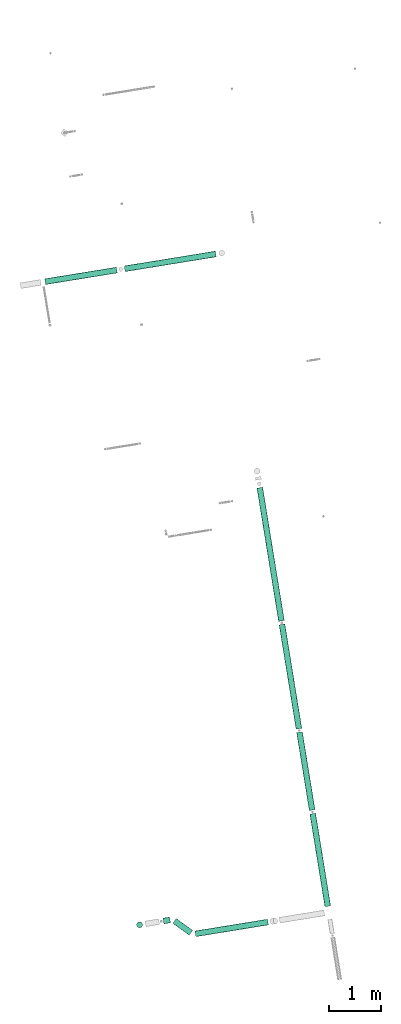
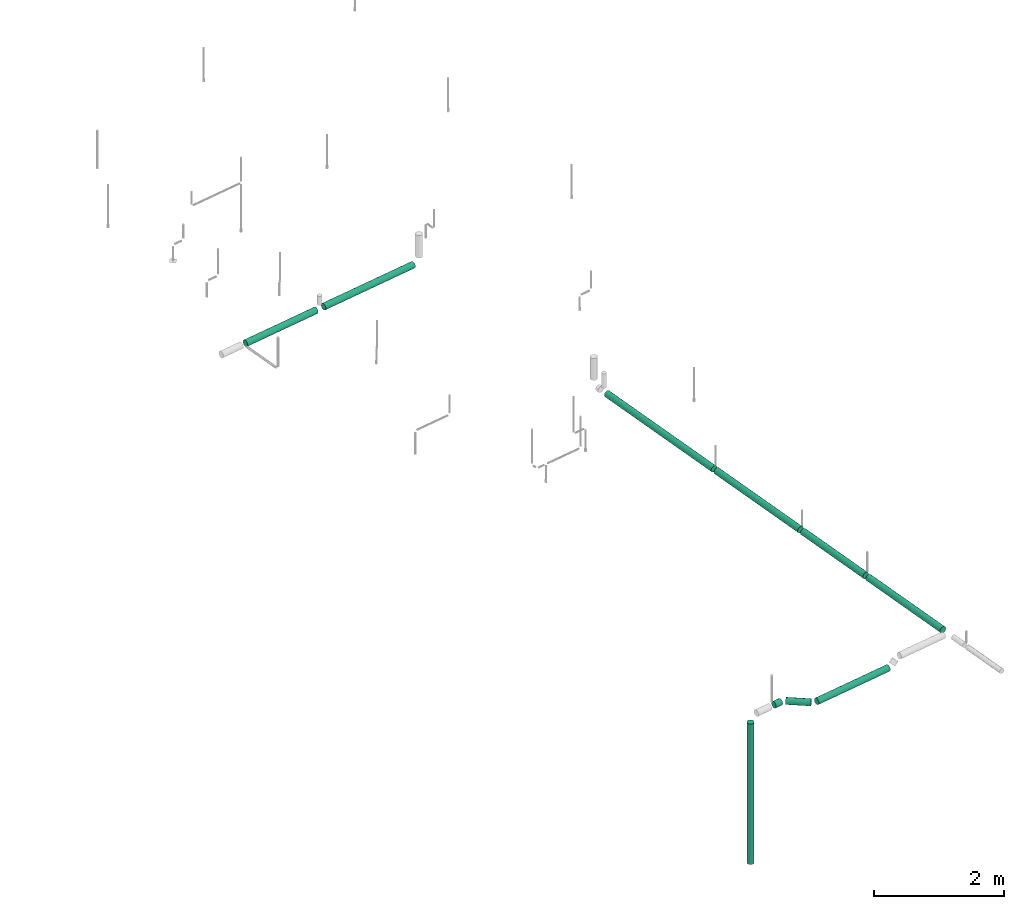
# One storey, part 1 of 8: 10 flow segments.
"""IFC2X3 building model written with IfcOpenShell, lengths in millimetres."""

from ifc_helpers import new_model, entity, si_unit, converted_unit, derived_unit, direction, frame, frame_2d, origin, origin_with_axes, origin_2d_with_axis, place, context, subcontext, project, spatial, circle, extrude, type_object, element, save


model = new_model("IFC2X3")

# Units and contexts
plan_context = context("Plan", 3, precision=1e-05, world=origin_with_axes())
model_context = context("Model", 3, precision=0.01, world=origin(), true_north=direction((6.12323399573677e-17, 1.0)))
body_context = subcontext(model_context, "Body", "Model", "MODEL_VIEW")
ifc_project = project(units=[converted_unit("PLANEANGLEUNIT", "DEGREE", entity("IfcPositiveLengthMeasure", 0.0174532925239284), si_unit("PLANEANGLEUNIT", "RADIAN"), dimensions=[0, 0, 0, 0, 0, 0, 0]), si_unit("AREAUNIT", "SQUARE_METRE"), si_unit("LENGTHUNIT", "METRE", prefix="MILLI"), si_unit("MASSUNIT", "GRAM", prefix="KILO"), si_unit("POWERUNIT", "WATT"), si_unit("PRESSUREUNIT", "PASCAL", prefix="KILO"), si_unit("FORCEUNIT", "NEWTON", prefix="KILO"), si_unit("ELECTRICVOLTAGEUNIT", "VOLT"), si_unit("ELECTRICCURRENTUNIT", "AMPERE"), si_unit("THERMODYNAMICTEMPERATUREUNIT", "DEGREE_CELSIUS"), si_unit("TIMEUNIT", "SECOND"), si_unit("VOLUMEUNIT", "CUBIC_METRE"), derived_unit("LINEARVELOCITYUNIT", [(si_unit("LENGTHUNIT", "METRE"), 1), (si_unit("TIMEUNIT", "SECOND"), -1)]), derived_unit("VOLUMETRICFLOWRATEUNIT", [(si_unit("VOLUMEUNIT", "CUBIC_METRE"), 1), (si_unit("TIMEUNIT", "SECOND"), -1)]), derived_unit("THERMALTRANSMITTANCEUNIT", [(si_unit("POWERUNIT", "WATT"), 1), (si_unit("THERMODYNAMICTEMPERATUREUNIT", "KELVIN"), -1), (si_unit("AREAUNIT", "SQUARE_METRE"), -1)]), derived_unit("SOUNDPRESSUREUNIT", [(si_unit("PRESSUREUNIT", "PASCAL"), 1)])], contexts=[model_context, plan_context])

# Site, building, storey
site_placement = place(None, frame((-0.00071070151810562, 0.00438415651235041, 0.0), z_axis=(0.0, 0.0, 1.0), x_axis=(-0.160236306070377, 0.987078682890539, 0.0)))
site = spatial("IfcSite", under=ifc_project, at=site_placement, Name="Default", CompositionType="ELEMENT")
building_placement = place(site_placement, origin_with_axes())
building = spatial("IfcBuilding", under=site, at=building_placement, CompositionType="ELEMENT")
storey_placement = place(building_placement, frame((0.0, 0.0, 58999.9999999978), z_axis=(0.0, 0.0, 1.0), x_axis=(1.0, 0.0, 0.0)))
storey = spatial("IfcBuildingStorey", under=building, at=storey_placement, Name="Nivå F", CompositionType="ELEMENT", Elevation=58999.9999999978)

# Flow segments
pipe_segment_type = type_object("IfcPipeSegmentType", Name="Pipe Types:Stålrør normaltykke", PredefinedType="NOTDEFINED")
flow_segment_1_placement = place(storey_placement, origin_with_axes())
element("IfcFlowSegment", 1, at=flow_segment_1_placement, inside=storey, type_object=pipe_segment_type, Name="Pipe Types:Stålrør normaltykke", ObjectType="Pipe Types:Stålrør normaltykke", context=body_context, shape_type="SweptSolid", body=[
    extrude(circle(Radius=57.1500016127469, at=origin_2d_with_axis()), frame((777209.619644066, -504680.648673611, 2870.0), z_axis=(0.0, 1.0, 0.0), x_axis=(1.0, 0.0, 0.0)), (0.0, 0.0, 1.0), 1777.10122052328),
])
flow_segment_2_placement = place(storey_placement, origin_with_axes())
element("IfcFlowSegment", 2, at=flow_segment_2_placement, inside=storey, type_object=pipe_segment_type, Name="Pipe Types:Stålrør normaltykke", ObjectType="Pipe Types:Stålrør normaltykke", context=body_context, shape_type="SweptSolid", body=[
    extrude(circle(Radius=57.1500016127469, at=origin_2d_with_axis()), frame((767939.425586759, -504795.048673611, 2880.0), z_axis=(1.0, 0.0, 0.0), x_axis=(0.0, -1.0, 0.0)), (0.0, 0.0, 1.0), 2032.40000000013),
])
flow_segment_3_placement = place(storey_placement, origin_with_axes())
element("IfcFlowSegment", 3, at=flow_segment_3_placement, inside=storey, type_object=pipe_segment_type, Name="Pipe Types:Stålrør normaltykke", ObjectType="Pipe Types:Stålrør normaltykke", context=body_context, shape_type="SweptSolid", body=[
    extrude(circle(Radius=57.1500016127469, at=origin_2d_with_axis()), frame((766353.197290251, -504795.048673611, 2880.0), z_axis=(1.0, 0.0, 0.0), x_axis=(0.0, -1.0, 0.0)), (0.0, 0.0, 1.0), 1518.62829650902),
])
flow_segment_4_placement = place(storey_placement, origin_with_axes())
element("IfcFlowSegment", 4, at=flow_segment_4_placement, inside=storey, type_object=pipe_segment_type, Name="Pipe Types:Stålrør normaltykke", ObjectType="Pipe Types:Stålrør normaltykke", context=body_context, shape_type="SweptSolid", body=[
    extrude(circle(Radius=57.1500016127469, at=origin_2d_with_axis()), frame((764478.519459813, -504795.048673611, 2880.0), z_axis=(1.0, 0.0, 0.0), x_axis=(0.0, -1.0, 0.0)), (0.0, 0.0, 1.0), 1807.07783043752),
])
flow_segment_5_placement = place(storey_placement, origin_with_axes())
element("IfcFlowSegment", 5, at=flow_segment_5_placement, inside=storey, type_object=pipe_segment_type, Name="Pipe Types:Stålrør normaltykke", ObjectType="Pipe Types:Stålrør normaltykke", context=body_context, shape_type="SweptSolid", body=[
    extrude(circle(Radius=57.1500016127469, at=frame_2d((0.0, 6.93034962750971e-11), x_axis=(1.0, 0.0))), frame((764707.011605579, -501165.91880016, 0.0)), (0.0, 0.0, 1.0), 2635.60000000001),
])
flow_segment_6_placement = place(storey_placement, origin_with_axes())
element("IfcFlowSegment", 6, at=flow_segment_6_placement, inside=storey, type_object=pipe_segment_type, Name="Pipe Types:Stålrør normaltykke", ObjectType="Pipe Types:Stålrør normaltykke", context=body_context, shape_type="SweptSolid", body=[
    extrude(circle(Radius=57.1500016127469, at=origin_2d_with_axis()), frame((764707.011605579, -501759.170496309, 2750.0), z_axis=(0.0, 1.0, 0.0), x_axis=(-1.0, 0.0, 0.0)), (0.0, 0.0, 1.0), 129.634078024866),
])
flow_segment_7_placement = place(storey_placement, origin_with_axes())
element("IfcFlowSegment", 7, at=flow_segment_7_placement, inside=storey, type_object=pipe_segment_type, Name="Pipe Types:Stålrør normaltykke", ObjectType="Pipe Types:Stålrør normaltykke", context=body_context, shape_type="SweptSolid", body=[
    extrude(circle(Radius=57.1500016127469, at=origin_2d_with_axis()), frame((764397.626444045, -502115.941689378, 2750.0), z_axis=(0.707106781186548, 0.707106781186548, 0.0), x_axis=(-0.707106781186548, 0.707106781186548, 0.0)), (0.0, 0.0, 1.0), 390.150659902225),
])
flow_segment_8_placement = place(storey_placement, origin_with_axes())
element("IfcFlowSegment", 8, at=flow_segment_8_placement, inside=storey, type_object=pipe_segment_type, Name="Pipe Types:Stålrør normaltykke", ObjectType="Pipe Types:Stålrør normaltykke", context=body_context, shape_type="SweptSolid", body=[
    extrude(circle(Radius=57.1500016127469, at=origin_2d_with_axis()), frame((764364.119459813, -503611.862642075, 2750.0), z_axis=(0.0, 1.0, 0.0), x_axis=(-1.0, 0.0, 0.0)), (0.0, 0.0, 1.0), 1415.0279369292),
])
flow_segment_9_placement = place(storey_placement, origin_with_axes())
element("IfcFlowSegment", 9, at=flow_segment_9_placement, inside=storey, type_object=pipe_segment_type, Name="Pipe Types:Stålrør normaltykke", ObjectType="Pipe Types:Stålrør normaltykke", context=body_context, shape_type="SweptSolid", body=[
    extrude(circle(Radius=57.1500016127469, at=origin_2d_with_axis()), frame((770039.42558676, -504795.048673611, 2880.0), z_axis=(1.0, 0.0, 0.0), x_axis=(0.0, -1.0, 0.0)), (0.0, 0.0, 1.0), 2597.63042172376),
])
flow_segment_10_placement = place(storey_placement, origin_with_axes())
element("IfcFlowSegment", 10, at=flow_segment_10_placement, inside=storey, type_object=pipe_segment_type, Name="Pipe Types:Stålrør normaltykke", ObjectType="Pipe Types:Stålrør normaltykke", context=body_context, shape_type="SweptSolid", body=[
    extrude(circle(Radius=57.1500016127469, at=origin_2d_with_axis()), frame((777209.619644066, -502751.147453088, 2870.0), z_axis=(0.0, 1.0, 0.0), x_axis=(1.0, 0.0, 0.0)), (0.0, 0.0, 1.0), 1397.86894710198),
])

save(model, "model.ifc")
